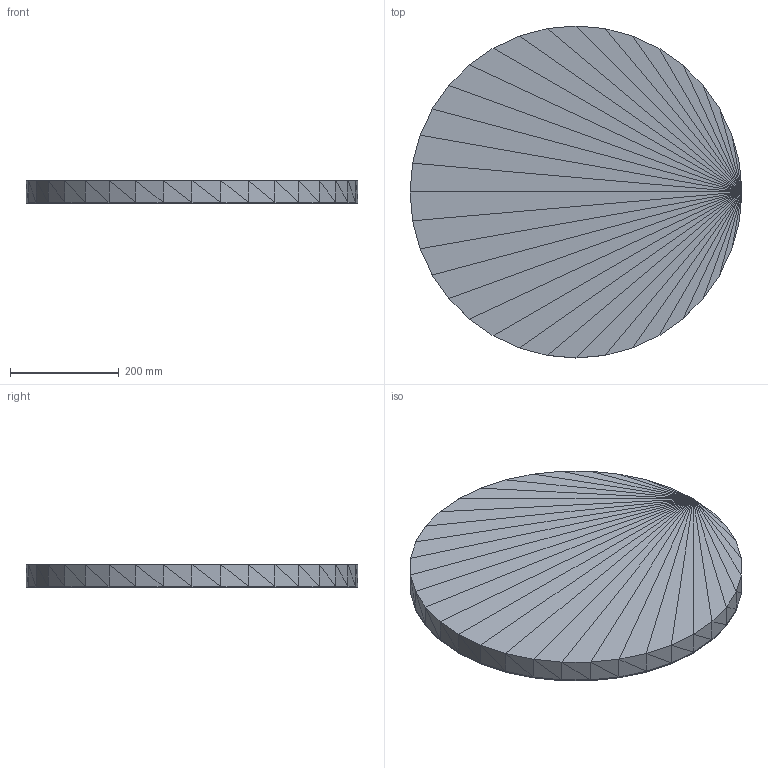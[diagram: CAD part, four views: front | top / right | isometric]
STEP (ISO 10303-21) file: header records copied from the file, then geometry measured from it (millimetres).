
FILE_DESCRIPTION(('ISINAC STEP AP214'),'2;1');
FILE_NAME('ISINAC_CIR.610_40mm_IMANTADA','2026-05-03T10:49:19',('ISINAC'),('www.isinac.com'),'ISINAC BIM Generator 1.0','','');
FILE_SCHEMA(('AUTOMOTIVE_DESIGN'));
Length unit declared in the file: millimetre
Products named in the file (1): ISINAC_CIR.610_40mm_IMANTADA
Bounding box: 610 x 610 x 42 mm (x, y, z)
Surface area: 1243446.2 mm2 (no closed solid volume)
Topology: 0 solids, 280 shells, 280 faces, 840 edges, 840 vertices
Faces by surface type: plane 280
Entity records: 3093 total; most frequent: CARTESIAN_POINT 1120, DIRECTION 560, POLY_LOOP 280, FACE_OUTER_BOUND 280, AXIS2_PLACEMENT_3D 280, PLANE 280, FACE_SURFACE 280, CLOSED_SHELL 1
